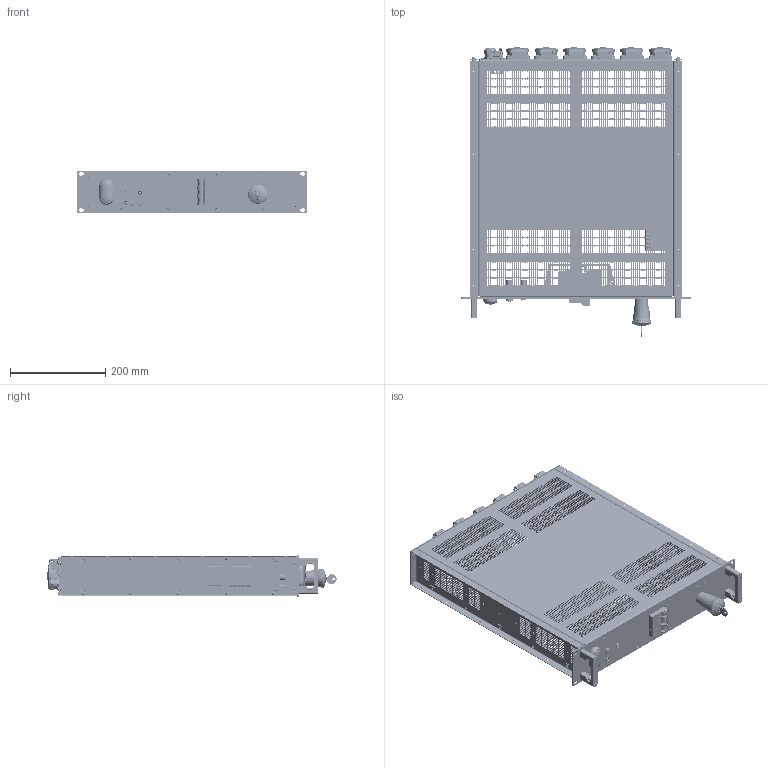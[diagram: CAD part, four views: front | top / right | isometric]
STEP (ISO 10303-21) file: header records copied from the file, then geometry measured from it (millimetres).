
FILE_DESCRIPTION(('STEP AP214'),'1');
FILE_NAME('SE_M2_19Z_6XSCH_3D_01.step','2020-07-10T08:43:54',(' '),(' '),'Spatial InterOp 3D',' ',' ');
FILE_SCHEMA(('AUTOMOTIVE_DESIGN { 1 0 10303 214 1 1 1 1 }'));
Length unit declared in the file: millimetre
Products named in the file (17): 22_DECKEL_3D_03; DIN 965-A; JIS B1111-PNH-Z; DIN 7985-A; 2239_Seitenteil_2HE_3D_01; 2242_SE_2HE_Frontplatte_SI_3D_03_mit_Einbauten; 2241_SE_2HE_Rückwand_Schuko_3D_01_mit_Einbauten; *U612; *U613; *U614; *U615; 3xM2.5_5x5x12; *U616; AutoCreatedBlock_1049; AutoCreatedBlock_1033
Assembly tree (84 placements, depth 3):
  (unnamed)
    22_DECKEL_3D_03  x2
    DIN 965-A  x8
    JIS B1111-PNH-Z  x20
    DIN 7985-A  x8
    2239_Seitenteil_2HE_3D_01  x2
    2242_SE_2HE_Frontplatte_SI_3D_03_mit_Einbauten
    2241_SE_2HE_Rückwand_Schuko_3D_01_mit_Einbauten
      *U612  x24
      *U613
      *U614  x2
      *U615  x3
      3xM2.5_5x5x12  x2
      *U616  x4
      AutoCreatedBlock_1049
    DIN 7985-A  x4
    AutoCreatedBlock_1033
Bounding box: 482.6 x 608.5 x 88.1 mm (x, y, z)
Volume: 2393021.1 mm3; surface area: 1727562.6 mm2
Topology: 207 solids, 207 shells, 26428 faces, 70810 edges, 45168 vertices
Faces by surface type: plane 11965, cylinder 7373, cone 6309, torus 306, sphere 260, bspline 187, extrusion 28
Entity records: 652346 total; most frequent: CARTESIAN_POINT 119536, DIRECTION 82184, ORIENTED_EDGE 81878, EDGE_CURVE 40939, AXIS2_PLACEMENT_3D 27542, VECTOR 27100, LINE 27072, VERTEX_POINT 26656
